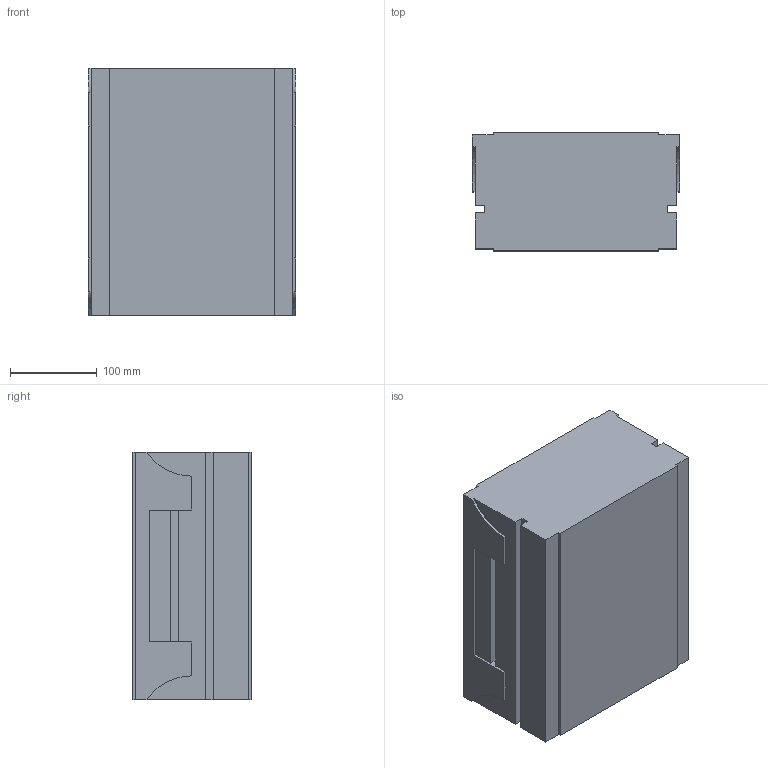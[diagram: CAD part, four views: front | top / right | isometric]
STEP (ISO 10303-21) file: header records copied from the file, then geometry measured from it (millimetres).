
FILE_DESCRIPTION (( 'STEP AP214' ), '1' );
FILE_NAME ('02.150M01.230.N FS-MTC-150 Kettingmont. eenheid.STEP', '2013-03-21T10:12:54', ( 'Gebruiker' ), ( '' ), 'SwSTEP 2.0', 'SolidWorks 2012', '' );
FILE_SCHEMA (( 'AUTOMOTIVE_DESIGN' ));
Length unit declared in the file: millimetre
Products named in the file (1): 02.150M01.230.N FS-MTC-150 Kettingmont. eenheid
Bounding box: 238.5 x 136 x 285 mm (x, y, z)
Volume: 8925437.3 mm3; surface area: 296667.9 mm2
Topology: 1 solids, 1 shells, 46 faces, 132 edges, 88 vertices
Faces by surface type: plane 42, cylinder 4
Entity records: 1518 total; most frequent: CARTESIAN_POINT 267, ORIENTED_EDGE 264, DIRECTION 234, EDGE_CURVE 132, VECTOR 124, LINE 124, VERTEX_POINT 88, AXIS2_PLACEMENT_3D 55
